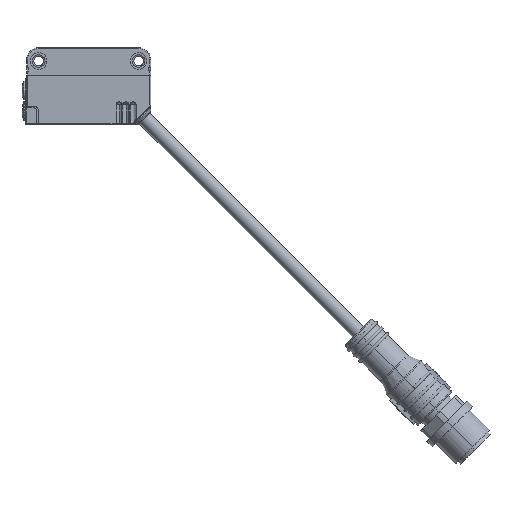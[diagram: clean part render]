
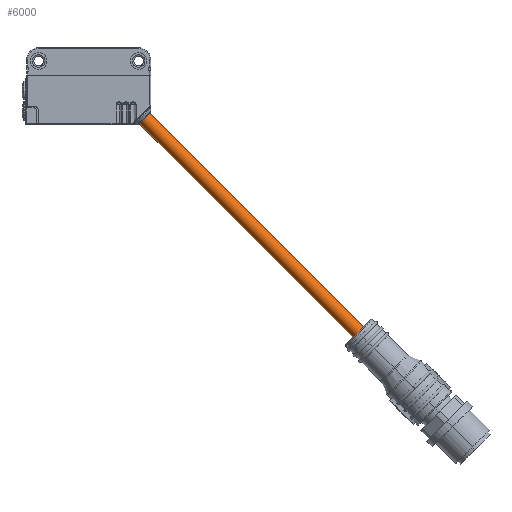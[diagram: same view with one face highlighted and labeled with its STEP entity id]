
A CAD part, left-side view. The second image highlights one B-rep face of the part: STEP entity #6000.
In plain terms, the highlighted cylindrical face has radius 1.85 mm (diameter 3.7 mm), a full revolution.
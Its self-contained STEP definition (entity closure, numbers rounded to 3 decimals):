
#3078=CYLINDRICAL_SURFACE('',#32573,1.85);
#3349=FACE_BOUND('',#10154,.T.);
#3350=FACE_BOUND('',#10155,.T.);
#4301=CIRCLE('',#32571,1.85);
#4302=CIRCLE('',#32572,1.85);
#6000=ADVANCED_FACE('',(#3349,#3350),#3078,.T.);
#10154=EDGE_LOOP('',(#18367));
#10155=EDGE_LOOP('',(#18368));
#18367=ORIENTED_EDGE('',*,*,#25691,.T.);
#18368=ORIENTED_EDGE('',*,*,#25692,.T.);
#21452=VERTEX_POINT('',#60387);
#21453=VERTEX_POINT('',#60389);
#25691=EDGE_CURVE('',#21452,#21452,#4301,.T.);
#25692=EDGE_CURVE('',#21453,#21453,#4302,.T.);
#32571=AXIS2_PLACEMENT_3D('',#60386,#39286,#39287);
#32572=AXIS2_PLACEMENT_3D('',#60388,#39288,#39289);
#32573=AXIS2_PLACEMENT_3D('',#60390,#39290,#39291);
#39286=DIRECTION('',(0.,0.707,0.707));
#39287=DIRECTION('',(0.,0.707,-0.707));
#39288=DIRECTION('',(0.,-0.707,-0.707));
#39289=DIRECTION('',(1.,0.,0.));
#39290=DIRECTION('',(0.,0.707,0.707));
#39291=DIRECTION('',(-1.,0.,0.));
#60386=CARTESIAN_POINT('',(0.,-68.536,-72.286));
#60387=CARTESIAN_POINT('',(0.,-67.227,-73.594));
#60388=CARTESIAN_POINT('',(0.,-11.543,-15.293));
#60389=CARTESIAN_POINT('',(1.85,-11.543,-15.293));
#60390=CARTESIAN_POINT('',(0.,-68.536,-72.286));
